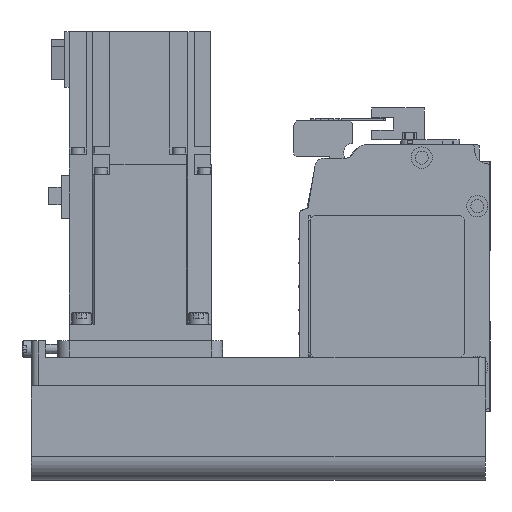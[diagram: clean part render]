
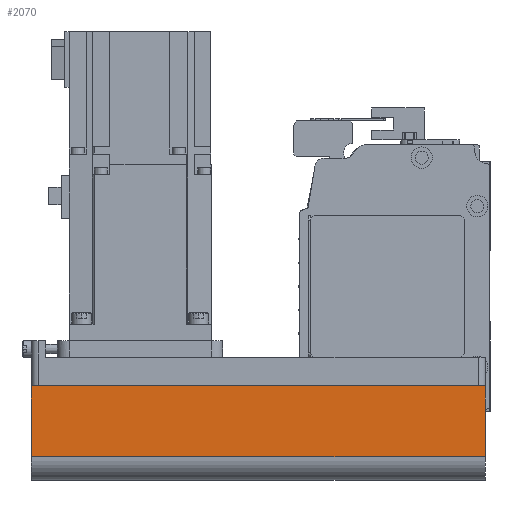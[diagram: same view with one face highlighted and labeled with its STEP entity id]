
A CAD part, left-side view. The second image highlights one B-rep face of the part: STEP entity #2070.
In plain terms, the highlighted planar face has unit normal (-1, 0, 0) as drawn and (0, -1, 0) by its records, which use the part's own axes.
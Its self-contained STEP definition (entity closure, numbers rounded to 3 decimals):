
#2070 = ADVANCED_FACE( '', ( #4348 ), #4349, .T. );
#4348 = FACE_OUTER_BOUND( '', #6764, .T. );
#4349 = PLANE( '', #6765 );
#6764 = EDGE_LOOP( '', ( #12410, #12411, #12412, #12413 ) );
#6765 = AXIS2_PLACEMENT_3D( '', #12414, #12415, #12416 );
#12410 = ORIENTED_EDGE( '', *, *, #15090, .F. );
#12411 = ORIENTED_EDGE( '', *, *, #13825, .F. );
#12412 = ORIENTED_EDGE( '', *, *, #14885, .T. );
#12413 = ORIENTED_EDGE( '', *, *, #14984, .T. );
#12414 = CARTESIAN_POINT( '', ( -192., -40., -12.1 ) );
#12415 = DIRECTION( '', ( 0., -1., 0. ) );
#12416 = DIRECTION( '', ( 0., 0., -1. ) );
#13825 = EDGE_CURVE( '', #16438, #16440, #16441, .T. );
#14885 = EDGE_CURVE( '', #16438, #18204, #18206, .T. );
#14984 = EDGE_CURVE( '', #18204, #18348, #18351, .T. );
#15090 = EDGE_CURVE( '', #16440, #18348, #18505, .T. );
#16438 = VERTEX_POINT( '', #20208 );
#16440 = VERTEX_POINT( '', #20211 );
#16441 = LINE( '', #20212, #20213 );
#18204 = VERTEX_POINT( '', #22583 );
#18206 = LINE( '', #22585, #22586 );
#18348 = VERTEX_POINT( '', #22787 );
#18351 = LINE( '', #22790, #22791 );
#18505 = LINE( '', #22998, #22999 );
#20208 = CARTESIAN_POINT( '', ( -192., -40., -12.1 ) );
#20211 = CARTESIAN_POINT( '', ( 0., -40., -12.1 ) );
#20212 = CARTESIAN_POINT( '', ( -192., -40., -12.1 ) );
#20213 = VECTOR( '', #24964, 1000. );
#22583 = CARTESIAN_POINT( '', ( -192., -40., -42. ) );
#22585 = CARTESIAN_POINT( '', ( -192., -40., -12.1 ) );
#22586 = VECTOR( '', #26295, 1000. );
#22787 = CARTESIAN_POINT( '', ( 0., -40., -42. ) );
#22790 = CARTESIAN_POINT( '', ( -192., -40., -42. ) );
#22791 = VECTOR( '', #26400, 1000. );
#22998 = CARTESIAN_POINT( '', ( 0., -40., -12.1 ) );
#22999 = VECTOR( '', #26532, 1000. );
#24964 = DIRECTION( '', ( 1., 0., 0. ) );
#26295 = DIRECTION( '', ( 0., 0., -1. ) );
#26400 = DIRECTION( '', ( 1., 0., 0. ) );
#26532 = DIRECTION( '', ( 0., 0., -1. ) );
